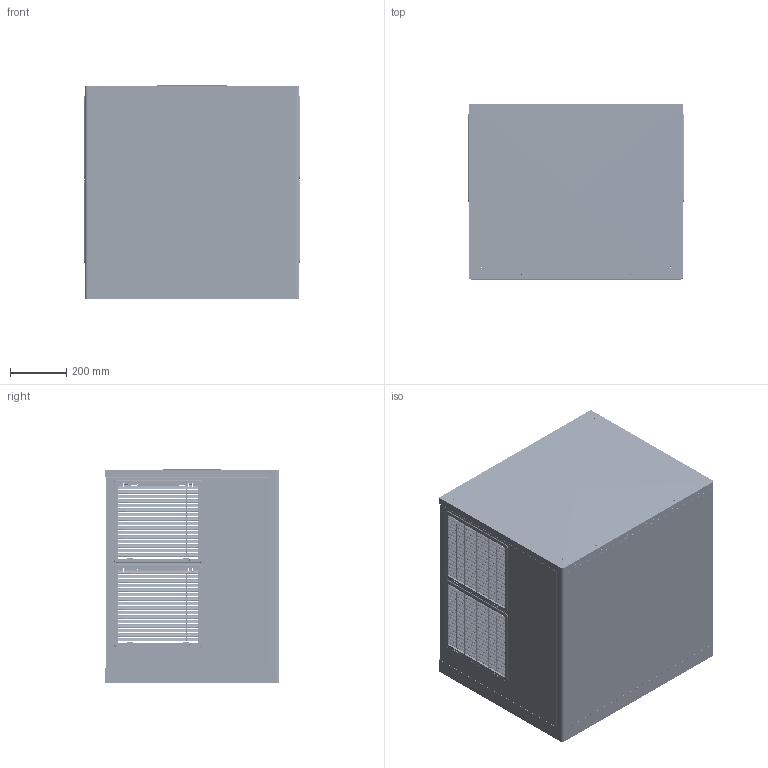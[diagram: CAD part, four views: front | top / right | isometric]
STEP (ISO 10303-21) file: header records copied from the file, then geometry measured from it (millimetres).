
FILE_DESCRIPTION(/* description */ ('Unknown'),/* implementation_level */ '2;1');
FILE_NAME(/* name */ 'MS-400_880',/* time_stamp */ '2018-04-20T13:34:52+02:00',/* author */ ('Unknown'),/* organization */ ('Unknown'),/* preprocessor_version */ 'ST-DEVELOPER v16.7',/* originating_system */ 'DEX',/* authorisation */ $);
FILE_SCHEMA (('CONFIG_CONTROL_DESIGN'));
Products named in the file (18): MS400; 28_COMPOSICION_oa_0; 28_U-C_oa_1; 28-138_ESTRUCTURA_oa_2; 28-81+6074_oa_3; 28-81+6074; 28-97+6324; 28-101+6320_oa_4; 28-93+6329; 28-93+6330; 28-116+6073; 28-143+6084; 28-136+6269-6270_oa_5; 28-144+6076; 28-145+6075; 28-85+6266; 28-122+6316; 28-97+31004
Assembly tree (20 placements, depth 6):
  MS400
    28_COMPOSICION_oa_0
      28_U-C_oa_1
        28-138_ESTRUCTURA_oa_2
          28-81+6074_oa_3
            28-81+6074
          28-97+6324
          28-101+6320_oa_4
    28-93+6329
    28-93+6330
    28-116+6073
    28-143+6084  x4
    28-136+6269-6270_oa_5
      28-144+6076
      28-145+6075
      28-85+6266
    28-122+6316
    28-97+31004
Bounding box: 766 x 620 x 757.5 mm (x, y, z)
Volume: 6607481.3 mm3; surface area: 7471620.1 mm2
Topology: 15 solids, 15 shells, 9481 faces, 29039 edges, 19021 vertices
Faces by surface type: plane 6597, cylinder 2447, cone 181, bspline 137, torus 70, sphere 49
Full cylindrical faces by diameter (mm): 2.7 x27, 4 x14, 4.25 x5, 5 x61, 6 x20, 7 x10, 15 x1, 16 x2, 20 x3, 30 x2
Entity records: 249053 total; most frequent: CARTESIAN_POINT 47404, ORIENTED_EDGE 42712, DIRECTION 37912, EDGE_CURVE 21356, LINE 17702, VECTOR 17702, VERTEX_POINT 14175, AXIS2_PLACEMENT_3D 10105
